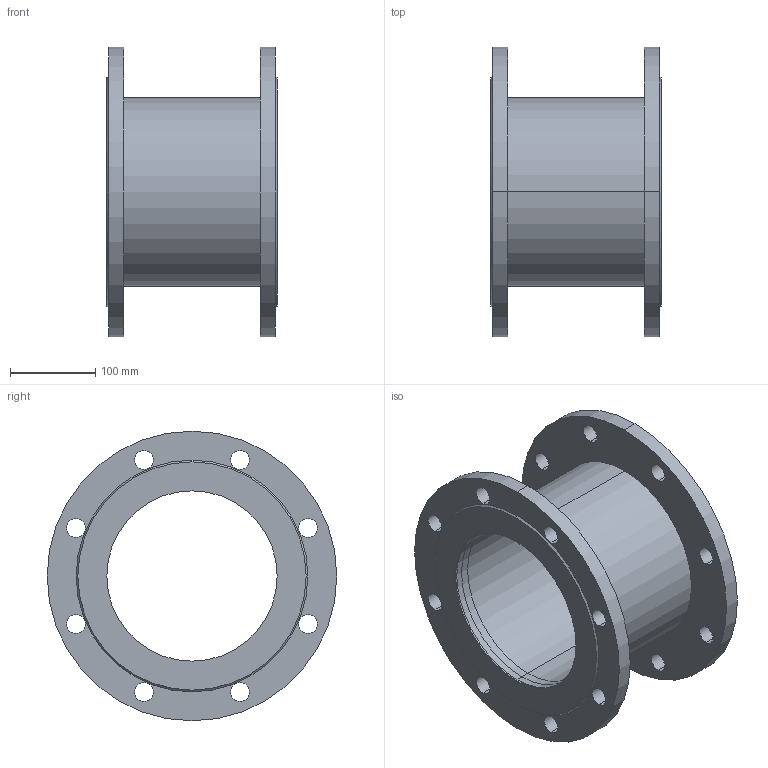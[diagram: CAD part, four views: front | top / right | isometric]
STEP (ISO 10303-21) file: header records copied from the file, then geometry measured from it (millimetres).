
FILE_DESCRIPTION(('STEP AP214'),'1');
FILE_NAME('U:/VDI-Daten/8500/8500_PN10_DN200.STP','2012-06-12T13:28:09',(' '),(' '),'Spatial InterOp 3D',' ',' ');
FILE_SCHEMA(('automotive_design'));
Length unit declared in the file: millimetre
Products named in the file (5): 3D-Objekt
Bounding box: 200 x 340 x 340 mm (x, y, z)
Volume: 3443918.6 mm3; surface area: 670219.1 mm2
Topology: 5 solids, 5 shells, 62 faces, 156 edges, 104 vertices
Faces by surface type: cylinder 48, plane 10, cone 4
Entity records: 2621 total; most frequent: DIRECTION 394, CARTESIAN_POINT 327, ORIENTED_EDGE 312, AXIS2_PLACEMENT_3D 171, EDGE_CURVE 156, EDGE_LOOP 104, VERTEX_POINT 104, CIRCLE 104
